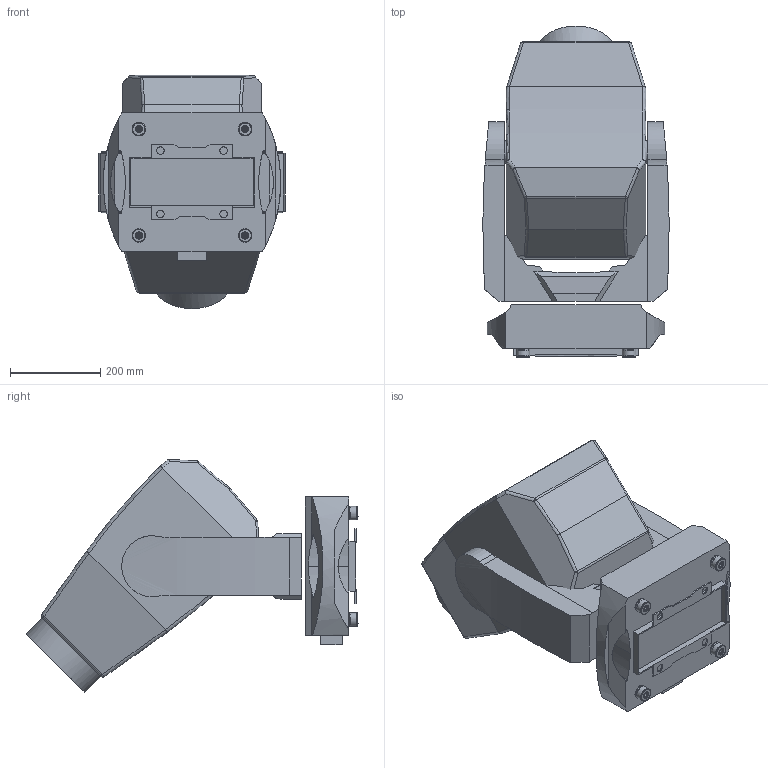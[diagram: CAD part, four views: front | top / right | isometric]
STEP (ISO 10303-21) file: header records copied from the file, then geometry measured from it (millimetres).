
FILE_DESCRIPTION(/* description */ (''),/* implementation_level */ '2;1');
FILE_NAME(/* name */ 'D:/dgooch/Documents/CADENG/PRO/MK3 Spot/45/Maverick MK3 Spot_45.step',/* time_stamp */ '2019-03-18T12:07:34-04:00',/* author */ (''),/* organization */ (''),/* preprocessor_version */ 'ST-DEVELOPER v17.2',/* originating_system */ 'Autodesk Translation Framework v7.6.0.251',/* authorisation */ '');
FILE_SCHEMA (('AUTOMOTIVE_DESIGN { 1 0 10303 214 3 1 1 }'));
Length unit declared in the file: millimetre
Products named in the file (8): Maverick MK3 Spot; Maverick MK2 Profile; Base; CD-JD30-21_ASM_1_ASM (1); JJ-D30-01_1 (1); JJ-D30-02_1 (1); Arms; Head_MK
Assembly tree (10 placements, depth 5):
  Maverick MK3 Spot
    Maverick MK2 Profile
      Base
        CD-JD30-21_ASM_1_ASM (1)  x4
          JJ-D30-01_1 (1)
          JJ-D30-02_1 (1)
      Arms
      Head_MK
Bounding box: 411.79 x 734.27 x 515.69 mm (x, y, z)
Volume: 54861106.8 mm3; surface area: 1664500.8 mm2
Topology: 12 solids, 12 shells, 413 faces, 1222 edges, 871 vertices
Faces by surface type: plane 176, cylinder 141, cone 60, bspline 16, torus 12, sphere 8
Full cylindrical faces by diameter (mm): 4.1 x4, 5 x40, 10 x8, 15 x16, 17 x4, 27 x16, 30 x12, 50 x2, 165.644 x1, 183.319 x1
Entity records: 9105 total; most frequent: CARTESIAN_POINT 2148, DIRECTION 1456, ORIENTED_EDGE 1418, EDGE_CURVE 709, AXIS2_PLACEMENT_3D 535, VERTEX_POINT 484, LINE 386, VECTOR 386
